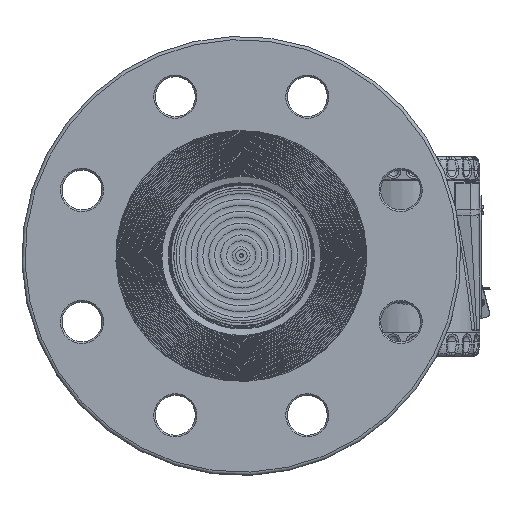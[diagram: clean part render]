
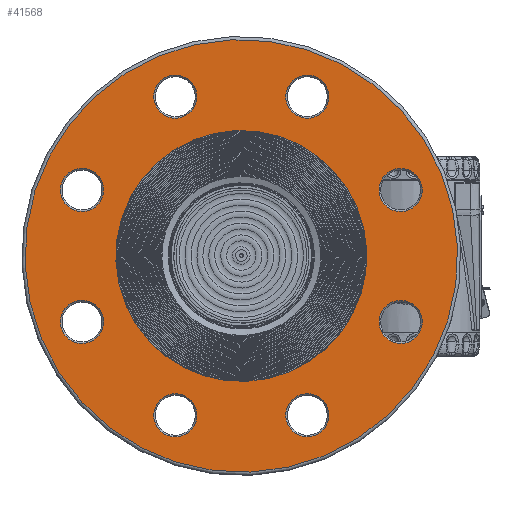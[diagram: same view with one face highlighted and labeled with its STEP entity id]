
A CAD part, top view. The second image highlights one B-rep face of the part: STEP entity #41568.
In plain terms, the highlighted planar face has unit normal (0, 0, 1).
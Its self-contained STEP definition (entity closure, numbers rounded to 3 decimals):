
#675=FACE_BOUND('',#6876,.T.);
#676=FACE_BOUND('',#6877,.T.);
#677=FACE_BOUND('',#6878,.T.);
#678=FACE_BOUND('',#6879,.T.);
#679=FACE_BOUND('',#6880,.T.);
#680=FACE_BOUND('',#6881,.T.);
#681=FACE_BOUND('',#6882,.T.);
#682=FACE_BOUND('',#6883,.T.);
#683=FACE_BOUND('',#6884,.T.);
#2703=PLANE('',#46134);
#4102=FACE_OUTER_BOUND('',#6875,.T.);
#6875=EDGE_LOOP('',(#31582));
#6876=EDGE_LOOP('',(#31583));
#6877=EDGE_LOOP('',(#31584));
#6878=EDGE_LOOP('',(#31585));
#6879=EDGE_LOOP('',(#31586));
#6880=EDGE_LOOP('',(#31587));
#6881=EDGE_LOOP('',(#31588));
#6882=EDGE_LOOP('',(#31589));
#6883=EDGE_LOOP('',(#31590));
#6884=EDGE_LOOP('',(#31591));
#13658=CIRCLE('',#46131,135.5);
#13660=CIRCLE('',#46135,13.5);
#13661=CIRCLE('',#46136,13.5);
#13662=CIRCLE('',#46137,13.5);
#13663=CIRCLE('',#46138,13.5);
#13664=CIRCLE('',#46139,78.6);
#13665=CIRCLE('',#46140,13.5);
#13666=CIRCLE('',#46141,13.5);
#13667=CIRCLE('',#46142,13.5);
#13668=CIRCLE('',#46143,13.5);
#18206=VERTEX_POINT('',#73371);
#18208=VERTEX_POINT('',#73379);
#18209=VERTEX_POINT('',#73381);
#18210=VERTEX_POINT('',#73383);
#18211=VERTEX_POINT('',#73385);
#18212=VERTEX_POINT('',#73387);
#18213=VERTEX_POINT('',#73389);
#18214=VERTEX_POINT('',#73391);
#18215=VERTEX_POINT('',#73393);
#18216=VERTEX_POINT('',#73395);
#22974=EDGE_CURVE('',#18206,#18206,#13658,.T.);
#22977=EDGE_CURVE('',#18208,#18208,#13660,.T.);
#22978=EDGE_CURVE('',#18209,#18209,#13661,.T.);
#22979=EDGE_CURVE('',#18210,#18210,#13662,.T.);
#22980=EDGE_CURVE('',#18211,#18211,#13663,.T.);
#22981=EDGE_CURVE('',#18212,#18212,#13664,.T.);
#22982=EDGE_CURVE('',#18213,#18213,#13665,.T.);
#22983=EDGE_CURVE('',#18214,#18214,#13666,.T.);
#22984=EDGE_CURVE('',#18215,#18215,#13667,.T.);
#22985=EDGE_CURVE('',#18216,#18216,#13668,.T.);
#31582=ORIENTED_EDGE('',*,*,#22974,.F.);
#31583=ORIENTED_EDGE('',*,*,#22977,.F.);
#31584=ORIENTED_EDGE('',*,*,#22978,.F.);
#31585=ORIENTED_EDGE('',*,*,#22979,.F.);
#31586=ORIENTED_EDGE('',*,*,#22980,.F.);
#31587=ORIENTED_EDGE('',*,*,#22981,.F.);
#31588=ORIENTED_EDGE('',*,*,#22982,.F.);
#31589=ORIENTED_EDGE('',*,*,#22983,.F.);
#31590=ORIENTED_EDGE('',*,*,#22984,.F.);
#31591=ORIENTED_EDGE('',*,*,#22985,.F.);
#41568=ADVANCED_FACE('',(#4102,#675,#676,#677,#678,#679,#680,#681,#682,
#683),#2703,.T.);
#46131=AXIS2_PLACEMENT_3D('',#73373,#54296,#54297);
#46134=AXIS2_PLACEMENT_3D('',#73378,#54303,#54304);
#46135=AXIS2_PLACEMENT_3D('',#73380,#54305,#54306);
#46136=AXIS2_PLACEMENT_3D('',#73382,#54307,#54308);
#46137=AXIS2_PLACEMENT_3D('',#73384,#54309,#54310);
#46138=AXIS2_PLACEMENT_3D('',#73386,#54311,#54312);
#46139=AXIS2_PLACEMENT_3D('',#73388,#54313,#54314);
#46140=AXIS2_PLACEMENT_3D('',#73390,#54315,#54316);
#46141=AXIS2_PLACEMENT_3D('',#73392,#54317,#54318);
#46142=AXIS2_PLACEMENT_3D('',#73394,#54319,#54320);
#46143=AXIS2_PLACEMENT_3D('',#73396,#54321,#54322);
#54296=DIRECTION('center_axis',(0.,0.,-1.));
#54297=DIRECTION('ref_axis',(-1.,0.,0.));
#54303=DIRECTION('center_axis',(0.,0.,1.));
#54304=DIRECTION('ref_axis',(1.,0.,0.));
#54305=DIRECTION('center_axis',(0.,0.,1.));
#54306=DIRECTION('ref_axis',(-0.707,0.707,0.));
#54307=DIRECTION('center_axis',(0.,0.,1.));
#54308=DIRECTION('ref_axis',(0.707,0.707,0.));
#54309=DIRECTION('center_axis',(0.,0.,1.));
#54310=DIRECTION('ref_axis',(-0.707,-0.707,0.));
#54311=DIRECTION('center_axis',(0.,0.,1.));
#54312=DIRECTION('ref_axis',(0.,-1.,0.));
#54313=DIRECTION('center_axis',(0.,0.,1.));
#54314=DIRECTION('ref_axis',(-1.,0.,0.));
#54315=DIRECTION('center_axis',(0.,0.,1.));
#54316=DIRECTION('ref_axis',(0.707,-0.707,0.));
#54317=DIRECTION('center_axis',(0.,0.,1.));
#54318=DIRECTION('ref_axis',(-1.,0.,0.));
#54319=DIRECTION('center_axis',(0.,0.,1.));
#54320=DIRECTION('ref_axis',(1.,0.,0.));
#54321=DIRECTION('center_axis',(0.,0.,1.));
#54322=DIRECTION('ref_axis',(0.,1.,0.));
#73371=CARTESIAN_POINT('',(135.5,0.,38.));
#73373=CARTESIAN_POINT('Origin',(0.,0.,38.));
#73378=CARTESIAN_POINT('Origin',(0.,0.,
38.));
#73379=CARTESIAN_POINT('',(85.913,66.822,38.));
#73380=CARTESIAN_POINT('Origin',(76.368,76.368,38.));
#73381=CARTESIAN_POINT('',(66.822,-85.913,38.));
#73382=CARTESIAN_POINT('Origin',(76.368,-76.368,38.));
#73383=CARTESIAN_POINT('',(-66.822,85.913,38.));
#73384=CARTESIAN_POINT('Origin',(-76.368,76.368,38.));
#73385=CARTESIAN_POINT('',(-108.,13.5,38.));
#73386=CARTESIAN_POINT('Origin',(-108.,0.,38.));
#73387=CARTESIAN_POINT('',(78.6,0.,38.));
#73388=CARTESIAN_POINT('Origin',(0.,0.,38.));
#73389=CARTESIAN_POINT('',(-85.913,-66.822,38.));
#73390=CARTESIAN_POINT('Origin',(-76.368,-76.368,38.));
#73391=CARTESIAN_POINT('',(13.5,108.,38.));
#73392=CARTESIAN_POINT('Origin',(0.,108.,38.));
#73393=CARTESIAN_POINT('',(-13.5,-108.,38.));
#73394=CARTESIAN_POINT('Origin',(0.,-108.,38.));
#73395=CARTESIAN_POINT('',(108.,-13.5,38.));
#73396=CARTESIAN_POINT('Origin',(108.,0.,38.));
